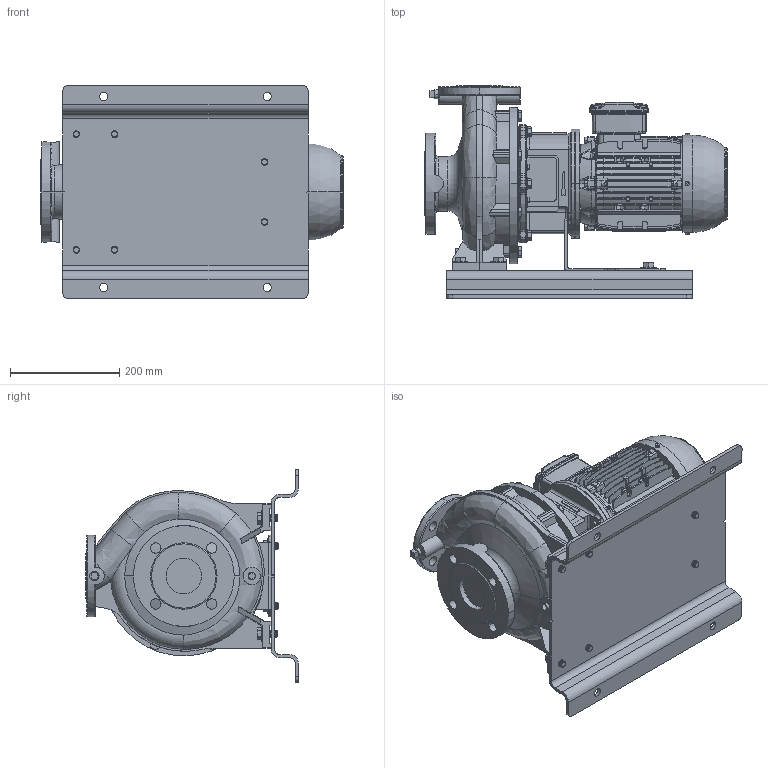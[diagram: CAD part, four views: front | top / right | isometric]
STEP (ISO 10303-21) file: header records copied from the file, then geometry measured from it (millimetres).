
FILE_DESCRIPTION (( 'STEP AP214' ), '1' );
FILE_NAME ('GSD4 40-200_1.1 & 1.5_(90SL)_W21_BP.STEP', '2024-08-08T01:35:46', ( '' ), ( '' ), 'SwSTEP 2.0', 'SolidWorks 2019', '' );
FILE_SCHEMA (( 'AUTOMOTIVE_DESIGN' ));
Length unit declared in the file: millimetre
Products named in the file (8): Parametric bolt_SFT-A295B; GSD4 40-200_1.1 & 1.5_(90SL)_W21_BP; 90S_L ALIE3_W21T_B5; CGSD1-4153; N3S6 GSDA-362 F1-1832902-00; Parametric bolt_SFT-A299B; 40-200-90S_L_______; Parametric Flat Washer_M12
Assembly tree (16 placements, depth 2):
  GSD4 40-200_1.1 & 1.5_(90SL)_W21_BP
    40-200-90S_L_______
    90S_L ALIE3_W21T_B5
    N3S6 GSDA-362 F1-1832902-00
    CGSD1-4153
    Parametric bolt_SFT-A299B  x4
    Parametric bolt_SFT-A295B  x2
    Parametric Flat Washer_M12  x6
Bounding box: 554 x 390 x 390 mm (x, y, z)
Volume: 15765979.9 mm3; surface area: 1602768.5 mm2
Topology: 19 solids, 23 shells, 3878 faces, 10199 edges, 6560 vertices
Faces by surface type: plane 2004, cylinder 1090, torus 303, bspline 258, cone 201, sphere 22
Entity records: 186044 total; most frequent: CARTESIAN_POINT 98263, ORIENTED_EDGE 19124, DIRECTION 16949, EDGE_CURVE 9562, VERTEX_POINT 6175, AXIS2_PLACEMENT_3D 5719, LINE 5511, VECTOR 5511
